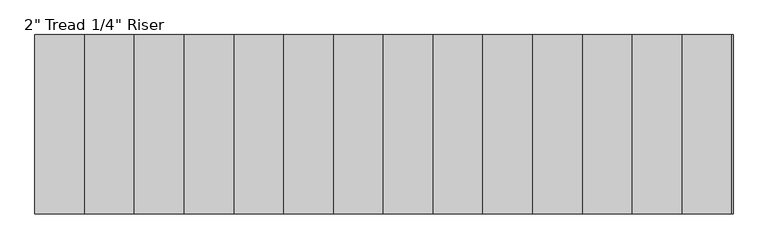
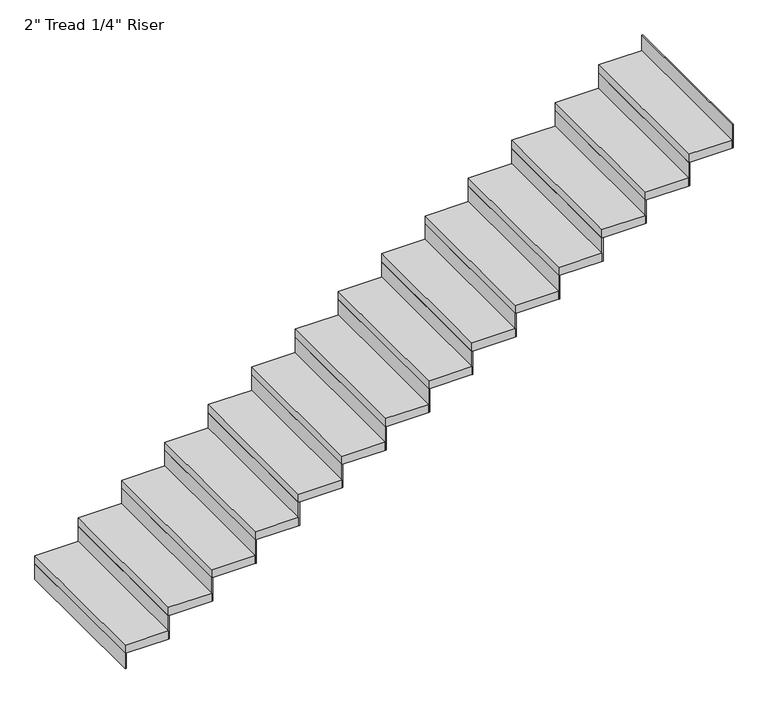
"""IFC4 building model written with IfcOpenShell, lengths in millimetres: stair flight geometry."""

from ifc_helpers import new_model, si_unit, frame, origin, origin_with_axes, place, context, project, spatial, polyline, outline, extrude, source, transform, mapped, element, save


def stair_flight_ad2e2b70(model_context):
    return source(origin(), model_context, "Body", "SweptSolid", [
        extrude(outline(polyline([(133406.5974271, -18859.8846057), (133400.2474271, -18859.8846057), (133400.2474271, -17945.4846057), (133406.5974271, -17945.4846057), (133406.5974271, -18859.8846057)])), origin_with_axes(), (0.0, 0.0, 1.0), 94.3428571),
        extrude(outline(polyline([(133654.2474271, -17945.4846057), (133654.2474271, -18859.8846057), (133400.2474271, -18859.8846057), (133400.2474271, -17945.4846057), (133654.2474271, -17945.4846057)])), frame((0.0, 0.0, 94.3428571), z_axis=(0.0, 0.0, 1.0), x_axis=(1.0, 0.0, 0.0)), (0.0, 0.0, 1.0), 50.8),
        extrude(outline(polyline([(133660.5974271, -18859.8846057), (133654.2474271, -18859.8846057), (133654.2474271, -17945.4846057), (133660.5974271, -17945.4846057), (133660.5974271, -18859.8846057)])), frame((0.0, 0.0, 94.3428571), z_axis=(0.0, 0.0, 1.0), x_axis=(1.0, 0.0, 0.0)), (0.0, 0.0, 1.0), 145.1428571),
        extrude(outline(polyline([(133908.2474271, -17945.4846057), (133908.2474271, -18859.8846057), (133654.2474271, -18859.8846057), (133654.2474271, -17945.4846057), (133908.2474271, -17945.4846057)])), frame((0.0, 0.0, 239.4857143), z_axis=(0.0, 0.0, 1.0), x_axis=(1.0, 0.0, 0.0)), (0.0, 0.0, 1.0), 50.8),
        extrude(outline(polyline([(133914.5974271, -18859.8846057), (133908.2474271, -18859.8846057), (133908.2474271, -17945.4846057), (133914.5974271, -17945.4846057), (133914.5974271, -18859.8846057)])), frame((0.0, 0.0, 239.4857143), z_axis=(0.0, 0.0, 1.0), x_axis=(1.0, 0.0, 0.0)), (0.0, 0.0, 1.0), 145.1428571),
        extrude(outline(polyline([(134162.2474271, -17945.4846057), (134162.2474271, -18859.8846057), (133908.2474271, -18859.8846057), (133908.2474271, -17945.4846057), (134162.2474271, -17945.4846057)])), frame((0.0, 0.0, 384.6285714), z_axis=(0.0, 0.0, 1.0), x_axis=(1.0, 0.0, 0.0)), (0.0, 0.0, 1.0), 50.8),
        extrude(outline(polyline([(134168.5974271, -18859.8846057), (134162.2474271, -18859.8846057), (134162.2474271, -17945.4846057), (134168.5974271, -17945.4846057), (134168.5974271, -18859.8846057)])), frame((0.0, 0.0, 384.6285714), z_axis=(0.0, 0.0, 1.0), x_axis=(1.0, 0.0, 0.0)), (0.0, 0.0, 1.0), 145.1428571),
        extrude(outline(polyline([(134416.2474271, -17945.4846057), (134416.2474271, -18859.8846057), (134162.2474271, -18859.8846057), (134162.2474271, -17945.4846057), (134416.2474271, -17945.4846057)])), frame((0.0, 0.0, 529.7714286), z_axis=(0.0, 0.0, 1.0), x_axis=(1.0, 0.0, 0.0)), (0.0, 0.0, 1.0), 50.8),
        extrude(outline(polyline([(134422.5974271, -18859.8846057), (134416.2474271, -18859.8846057), (134416.2474271, -17945.4846057), (134422.5974271, -17945.4846057), (134422.5974271, -18859.8846057)])), frame((0.0, 0.0, 529.7714286), z_axis=(0.0, 0.0, 1.0), x_axis=(1.0, 0.0, 0.0)), (0.0, 0.0, 1.0), 145.1428571),
        extrude(outline(polyline([(134670.2474271, -17945.4846057), (134670.2474271, -18859.8846057), (134416.2474271, -18859.8846057), (134416.2474271, -17945.4846057), (134670.2474271, -17945.4846057)])), frame((0.0, 0.0, 674.9142857), z_axis=(0.0, 0.0, 1.0), x_axis=(1.0, 0.0, 0.0)), (0.0, 0.0, 1.0), 50.8),
        extrude(outline(polyline([(134676.5974271, -18859.8846057), (134670.2474271, -18859.8846057), (134670.2474271, -17945.4846057), (134676.5974271, -17945.4846057), (134676.5974271, -18859.8846057)])), frame((0.0, 0.0, 674.9142857), z_axis=(0.0, 0.0, 1.0), x_axis=(1.0, 0.0, 0.0)), (0.0, 0.0, 1.0), 145.1428571),
        extrude(outline(polyline([(134924.2474271, -17945.4846057), (134924.2474271, -18859.8846057), (134670.2474271, -18859.8846057), (134670.2474271, -17945.4846057), (134924.2474271, -17945.4846057)])), frame((0.0, 0.0, 820.0571429), z_axis=(0.0, 0.0, 1.0), x_axis=(1.0, 0.0, 0.0)), (0.0, 0.0, 1.0), 50.8),
        extrude(outline(polyline([(134930.5974271, -18859.8846057), (134924.2474271, -18859.8846057), (134924.2474271, -17945.4846057), (134930.5974271, -17945.4846057), (134930.5974271, -18859.8846057)])), frame((0.0, 0.0, 820.0571429), z_axis=(0.0, 0.0, 1.0), x_axis=(1.0, 0.0, 0.0)), (0.0, 0.0, 1.0), 145.1428571),
        extrude(outline(polyline([(135178.2474271, -17945.4846057), (135178.2474271, -18859.8846057), (134924.2474271, -18859.8846057), (134924.2474271, -17945.4846057), (135178.2474271, -17945.4846057)])), frame((0.0, 0.0, 965.2), z_axis=(0.0, 0.0, 1.0), x_axis=(1.0, 0.0, 0.0)), (0.0, 0.0, 1.0), 50.8),
        extrude(outline(polyline([(135184.5974271, -18859.8846057), (135178.2474271, -18859.8846057), (135178.2474271, -17945.4846057), (135184.5974271, -17945.4846057), (135184.5974271, -18859.8846057)])), frame((0.0, 0.0, 965.2), z_axis=(0.0, 0.0, 1.0), x_axis=(1.0, 0.0, 0.0)), (0.0, 0.0, 1.0), 145.1428571),
        extrude(outline(polyline([(135432.2474271, -17945.4846057), (135432.2474271, -18859.8846057), (135178.2474271, -18859.8846057), (135178.2474271, -17945.4846057), (135432.2474271, -17945.4846057)])), frame((0.0, 0.0, 1110.3428571), z_axis=(0.0, 0.0, 1.0), x_axis=(1.0, 0.0, 0.0)), (0.0, 0.0, 1.0), 50.8),
        extrude(outline(polyline([(135438.5974271, -18859.8846057), (135432.2474271, -18859.8846057), (135432.2474271, -17945.4846057), (135438.5974271, -17945.4846057), (135438.5974271, -18859.8846057)])), frame((0.0, 0.0, 1110.3428571), z_axis=(0.0, 0.0, 1.0), x_axis=(1.0, 0.0, 0.0)), (0.0, 0.0, 1.0), 145.1428571),
        extrude(outline(polyline([(135686.2474271, -17945.4846057), (135686.2474271, -18859.8846057), (135432.2474271, -18859.8846057), (135432.2474271, -17945.4846057), (135686.2474271, -17945.4846057)])), frame((0.0, 0.0, 1255.4857143), z_axis=(0.0, 0.0, 1.0), x_axis=(1.0, 0.0, 0.0)), (0.0, 0.0, 1.0), 50.8),
        extrude(outline(polyline([(135692.5974271, -18859.8846057), (135686.2474271, -18859.8846057), (135686.2474271, -17945.4846057), (135692.5974271, -17945.4846057), (135692.5974271, -18859.8846057)])), frame((0.0, 0.0, 1255.4857143), z_axis=(0.0, 0.0, 1.0), x_axis=(1.0, 0.0, 0.0)), (0.0, 0.0, 1.0), 145.1428571),
        extrude(outline(polyline([(135940.2474271, -17945.4846057), (135940.2474271, -18859.8846057), (135686.2474271, -18859.8846057), (135686.2474271, -17945.4846057), (135940.2474271, -17945.4846057)])), frame((0.0, 0.0, 1400.6285714), z_axis=(0.0, 0.0, 1.0), x_axis=(1.0, 0.0, 0.0)), (0.0, 0.0, 1.0), 50.8),
        extrude(outline(polyline([(135946.5974271, -18859.8846057), (135940.2474271, -18859.8846057), (135940.2474271, -17945.4846057), (135946.5974271, -17945.4846057), (135946.5974271, -18859.8846057)])), frame((0.0, 0.0, 1400.6285714), z_axis=(0.0, 0.0, 1.0), x_axis=(1.0, 0.0, 0.0)), (0.0, 0.0, 1.0), 145.1428571),
        extrude(outline(polyline([(136194.2474271, -17945.4846057), (136194.2474271, -18859.8846057), (135940.2474271, -18859.8846057), (135940.2474271, -17945.4846057), (136194.2474271, -17945.4846057)])), frame((0.0, 0.0, 1545.7714286), z_axis=(0.0, 0.0, 1.0), x_axis=(1.0, 0.0, 0.0)), (0.0, 0.0, 1.0), 50.8),
        extrude(outline(polyline([(136200.5974271, -18859.8846057), (136194.2474271, -18859.8846057), (136194.2474271, -17945.4846057), (136200.5974271, -17945.4846057), (136200.5974271, -18859.8846057)])), frame((0.0, 0.0, 1545.7714286), z_axis=(0.0, 0.0, 1.0), x_axis=(1.0, 0.0, 0.0)), (0.0, 0.0, 1.0), 145.1428571),
        extrude(outline(polyline([(136448.2474271, -17945.4846057), (136448.2474271, -18859.8846057), (136194.2474271, -18859.8846057), (136194.2474271, -17945.4846057), (136448.2474271, -17945.4846057)])), frame((0.0, 0.0, 1690.9142857), z_axis=(0.0, 0.0, 1.0), x_axis=(1.0, 0.0, 0.0)), (0.0, 0.0, 1.0), 50.8),
        extrude(outline(polyline([(136454.5974271, -18859.8846057), (136448.2474271, -18859.8846057), (136448.2474271, -17945.4846057), (136454.5974271, -17945.4846057), (136454.5974271, -18859.8846057)])), frame((0.0, 0.0, 1690.9142857), z_axis=(0.0, 0.0, 1.0), x_axis=(1.0, 0.0, 0.0)), (0.0, 0.0, 1.0), 145.1428571),
        extrude(outline(polyline([(136702.2474271, -17945.4846057), (136702.2474271, -18859.8846057), (136448.2474271, -18859.8846057), (136448.2474271, -17945.4846057), (136702.2474271, -17945.4846057)])), frame((0.0, 0.0, 1836.0571429), z_axis=(0.0, 0.0, 1.0), x_axis=(1.0, 0.0, 0.0)), (0.0, 0.0, 1.0), 50.8),
        extrude(outline(polyline([(136708.5974271, -18859.8846057), (136702.2474271, -18859.8846057), (136702.2474271, -17945.4846057), (136708.5974271, -17945.4846057), (136708.5974271, -18859.8846057)])), frame((0.0, 0.0, 1836.0571429), z_axis=(0.0, 0.0, 1.0), x_axis=(1.0, 0.0, 0.0)), (0.0, 0.0, 1.0), 145.1428571),
        extrude(outline(polyline([(136962.5974271, -18859.8846057), (136956.2474271, -18859.8846057), (136956.2474271, -17945.4846057), (136962.5974271, -17945.4846057), (136962.5974271, -18859.8846057)])), frame((0.0, 0.0, 1981.2), z_axis=(0.0, 0.0, 1.0), x_axis=(1.0, 0.0, 0.0)), (0.0, 0.0, 1.0), 145.1428571),
        extrude(outline(polyline([(136956.2474271, -17945.4846057), (136956.2474271, -18859.8846057), (136702.2474271, -18859.8846057), (136702.2474271, -17945.4846057), (136956.2474271, -17945.4846057)])), frame((0.0, 0.0, 1981.2), z_axis=(0.0, 0.0, 1.0), x_axis=(1.0, 0.0, 0.0)), (0.0, 0.0, 1.0), 50.8),
    ])


if __name__ == "__main__":
    model = new_model("IFC4")
    model_context = context("Model", 3, world=origin())
    ifc_project = project(units=[si_unit("LENGTHUNIT", "METRE", prefix="MILLI")], contexts=[model_context])
    site = spatial("IfcSite", under=ifc_project)
    building = spatial("IfcBuilding", under=site)
    placement = place(None, origin())
    stair_flight_shape = stair_flight_ad2e2b70(model_context)
    element("IfcStairFlight", 1, ObjectType="2\" Tread 1/4\" Riser", at=placement, inside=building, context=model_context, shape_type="MappedRepresentation", body=[
        mapped(stair_flight_shape, transform((0.0, 0.0, 0.0), x_axis=(1.0, 0.0, 0.0), y_axis=(0.0, 1.0, 0.0), z_axis=(0.0, 0.0, 1.0))),
    ])
    save(model, "model.ifc")
